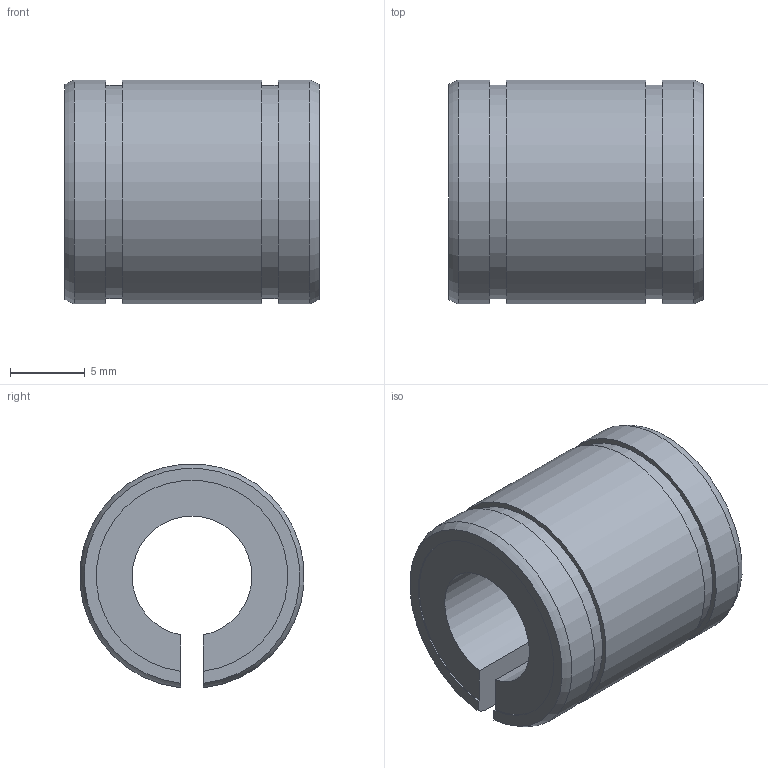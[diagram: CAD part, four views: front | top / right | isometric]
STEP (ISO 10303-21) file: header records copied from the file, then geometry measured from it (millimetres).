
FILE_DESCRIPTION((''),'2;1');
FILE_NAME('D:\製品 (図面)\カタログ用3D\リニアベアリング関連\STEP形式\L-ADJ\L8A-ADJ.stp','2010-06-02T17:35:04',('Tsuchiya'),(''),'Autodesk Inventor 10','Autodesk Inventor 10','');
FILE_SCHEMA(('AUTOMOTIVE_DESIGN { 1 0 10303 214 1 1 1 1 }'));
Length unit declared in the file: millimetre
Products named in the file (1): L8A-ADJ
Bounding box: 17 x 14.95 x 14.93 mm (x, y, z)
Volume: 2003 mm3; surface area: 1575.5 mm2
Topology: 1 solids, 1 shells, 20 faces, 54 edges, 36 vertices
Faces by surface type: plane 10, cylinder 8, torus 2
Entity records: 675 total; most frequent: CARTESIAN_POINT 135, DIRECTION 110, ORIENTED_EDGE 108, EDGE_CURVE 54, AXIS2_PLACEMENT_3D 39, VERTEX_POINT 36, VECTOR 32, LINE 32
